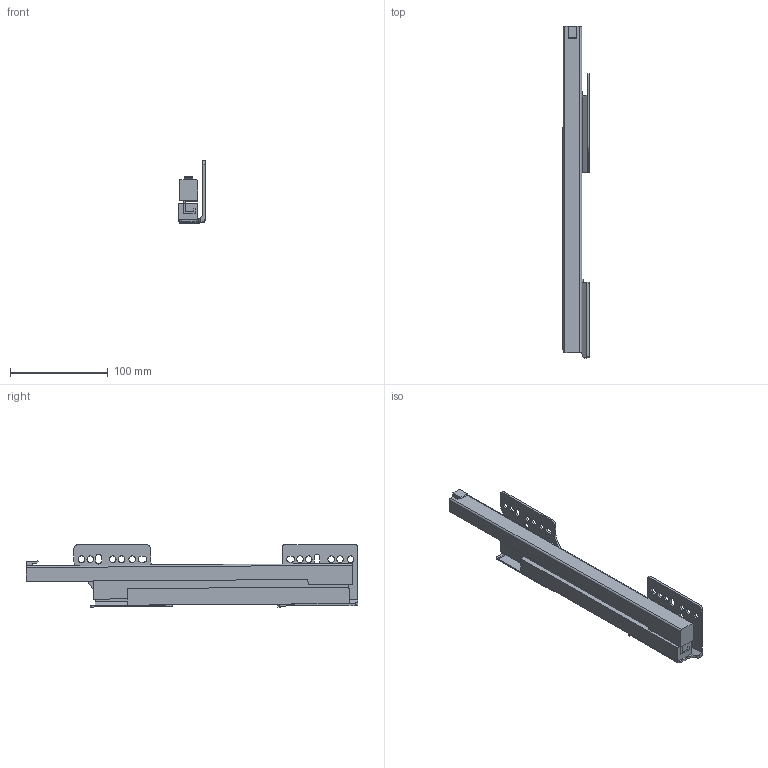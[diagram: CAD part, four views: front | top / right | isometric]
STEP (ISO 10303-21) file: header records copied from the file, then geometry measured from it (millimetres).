
FILE_DESCRIPTION (( 'STEP AP214' ), '1' );
FILE_NAME ('_IMOS_NOVA-Pro_KS_P904_RE_NL350_EB29.step', '2010-07-06T07:17:50', ( 'grass' ), ( '' ), 'SwSTEP 2.0', 'SolidWorks 2009', '' );
FILE_SCHEMA (( 'AUTOMOTIVE_DESIGN' ));
Length unit declared in the file: millimetre
Products named in the file (1): _IMOS_NOVA-Pro_KS_P904_RE_NL350_EB29
Bounding box: 26.75 x 340.39 x 64.46 mm (x, y, z)
Volume: 238654.2 mm3; surface area: 102019.8 mm2
Topology: 6 solids, 6 shells, 144 faces, 392 edges, 260 vertices
Faces by surface type: plane 89, cylinder 55
Entity records: 4691 total; most frequent: CARTESIAN_POINT 848, ORIENTED_EDGE 784, DIRECTION 765, EDGE_CURVE 392, LINE 275, VECTOR 275, VERTEX_POINT 260, AXIS2_PLACEMENT_3D 245
